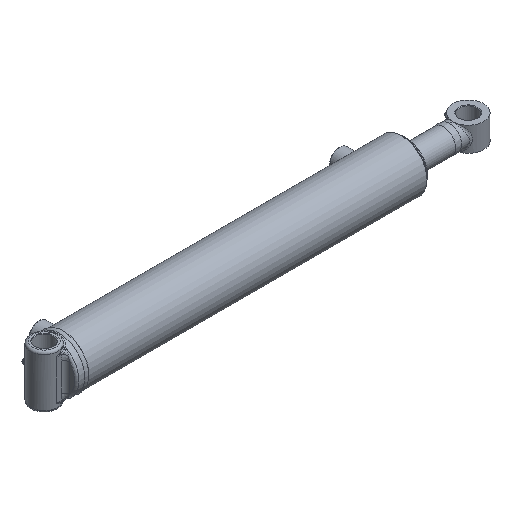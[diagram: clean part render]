
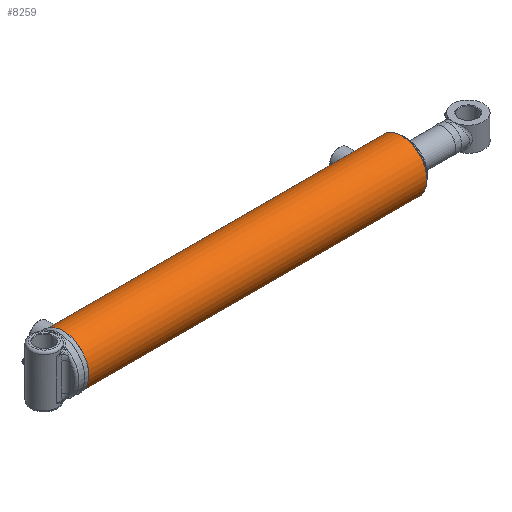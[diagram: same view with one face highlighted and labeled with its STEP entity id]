
A CAD part, isometric view. The second image highlights one B-rep face of the part: STEP entity #8259.
In plain terms, the highlighted cylindrical face has radius 36.513 mm (diameter 73.025 mm), a full revolution.
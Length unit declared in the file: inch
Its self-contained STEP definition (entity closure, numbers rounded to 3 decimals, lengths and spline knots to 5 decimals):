
#713=B_SPLINE_CURVE_WITH_KNOTS('',3,(#12235,#12236,#12237,#12238,#12239,
#12240,#12241,#12242,#12243,#12244),.UNSPECIFIED.,.F.,.F.,(4,2,2,2,4),(0.,
0.17962,0.35924,0.53885,0.71847),
 .UNSPECIFIED.);
#714=B_SPLINE_CURVE_WITH_KNOTS('',3,(#12245,#12246,#12247,#12248,#12249,
#12250,#12251,#12252,#12253,#12254,#12255,#12256,#12257,#12258,#12259,#12260,
#12261,#12262,#12263,#12264,#12265,#12266,#12267,#12268,#12269,#12270),
 .UNSPECIFIED.,.F.,.F.,(4,2,2,2,2,2,2,2,2,2,2,2,4),(0.71847,0.89808,
1.0777,1.25732,1.43694,1.61655,1.79617,
1.97579,2.1554,2.33502,2.51464,2.69425,
2.87387),.UNSPECIFIED.);
#715=B_SPLINE_CURVE_WITH_KNOTS('',3,(#12275,#12276,#12277,#12278,#12279,
#12280,#12281,#12282,#12283,#12284),.UNSPECIFIED.,.F.,.F.,(4,2,2,2,4),(0.,
0.17962,0.35924,0.53885,0.71847),
 .UNSPECIFIED.);
#716=B_SPLINE_CURVE_WITH_KNOTS('',3,(#12285,#12286,#12287,#12288,#12289,
#12290,#12291,#12292,#12293,#12294,#12295,#12296,#12297,#12298,#12299,#12300,
#12301,#12302,#12303,#12304,#12305,#12306,#12307,#12308,#12309,#12310),
 .UNSPECIFIED.,.F.,.F.,(4,2,2,2,2,2,2,2,2,2,2,2,4),(0.71847,0.89808,
1.0777,1.25732,1.43694,1.61655,1.79617,
1.97579,2.1554,2.33502,2.51464,2.69425,
2.87387),.UNSPECIFIED.);
#1063=FACE_BOUND('',#2630,.T.);
#1064=FACE_BOUND('',#2631,.T.);
#1342=LINE('',#12338,#1685);
#1685=VECTOR('',#10083,1.4375);
#2025=CYLINDRICAL_SURFACE('',#9126,1.4375);
#2115=FACE_OUTER_BOUND('',#2629,.T.);
#2629=EDGE_LOOP('',(#5794,#5795,#5796,#5797,#5798,#5799));
#2630=EDGE_LOOP('',(#5800,#5801));
#2631=EDGE_LOOP('',(#5802,#5803));
#3228=CIRCLE('',#9123,1.4375);
#3230=CIRCLE('',#9125,1.4375);
#3231=CIRCLE('',#9127,1.4375);
#3232=CIRCLE('',#9128,1.4375);
#3701=VERTEX_POINT('',#12232);
#3702=VERTEX_POINT('',#12234);
#3703=VERTEX_POINT('',#12272);
#3704=VERTEX_POINT('',#12274);
#3711=VERTEX_POINT('',#12331);
#3712=VERTEX_POINT('',#12332);
#3713=VERTEX_POINT('',#12337);
#3714=VERTEX_POINT('',#12339);
#4507=EDGE_CURVE('',#3702,#3701,#713,.T.);
#4508=EDGE_CURVE('',#3701,#3702,#714,.T.);
#4510=EDGE_CURVE('',#3704,#3703,#715,.T.);
#4511=EDGE_CURVE('',#3703,#3704,#716,.T.);
#4521=EDGE_CURVE('',#3711,#3712,#3228,.T.);
#4523=EDGE_CURVE('',#3712,#3711,#3230,.T.);
#4524=EDGE_CURVE('',#3711,#3713,#1342,.T.);
#4525=EDGE_CURVE('',#3714,#3713,#3231,.T.);
#4526=EDGE_CURVE('',#3713,#3714,#3232,.T.);
#5794=ORIENTED_EDGE('',*,*,#4521,.F.);
#5795=ORIENTED_EDGE('',*,*,#4524,.T.);
#5796=ORIENTED_EDGE('',*,*,#4525,.F.);
#5797=ORIENTED_EDGE('',*,*,#4526,.F.);
#5798=ORIENTED_EDGE('',*,*,#4524,.F.);
#5799=ORIENTED_EDGE('',*,*,#4523,.F.);
#5800=ORIENTED_EDGE('',*,*,#4507,.T.);
#5801=ORIENTED_EDGE('',*,*,#4508,.T.);
#5802=ORIENTED_EDGE('',*,*,#4510,.T.);
#5803=ORIENTED_EDGE('',*,*,#4511,.T.);
#8259=ADVANCED_FACE('',(#2115,#1063,#1064),#2025,.T.);
#9123=AXIS2_PLACEMENT_3D('',#12333,#10075,#10076);
#9125=AXIS2_PLACEMENT_3D('',#12335,#10079,#10080);
#9126=AXIS2_PLACEMENT_3D('',#12336,#10081,#10082);
#9127=AXIS2_PLACEMENT_3D('',#12340,#10084,#10085);
#9128=AXIS2_PLACEMENT_3D('',#12341,#10086,#10087);
#10075=DIRECTION('center_axis',(1.,0.,0.));
#10076=DIRECTION('ref_axis',(0.,-1.,0.));
#10079=DIRECTION('center_axis',(1.,0.,0.));
#10080=DIRECTION('ref_axis',(0.,-1.,0.));
#10081=DIRECTION('center_axis',(1.,0.,0.));
#10082=DIRECTION('ref_axis',(0.,-1.,0.));
#10083=DIRECTION('',(-1.,0.,0.));
#10084=DIRECTION('center_axis',(-1.,0.,0.));
#10085=DIRECTION('ref_axis',(0.,-1.,0.));
#10086=DIRECTION('center_axis',(-1.,0.,0.));
#10087=DIRECTION('ref_axis',(0.,-1.,0.));
#12232=CARTESIAN_POINT('',(0.5925,0.,1.4375));
#12234=CARTESIAN_POINT('',(0.78,-0.1875,1.42522));
#12235=CARTESIAN_POINT('Ctrl Pts',(0.78,-0.1875,1.42522));
#12236=CARTESIAN_POINT('Ctrl Pts',(0.75643,-0.1875,1.42522));
#12237=CARTESIAN_POINT('Ctrl Pts',(0.7313,-0.18278,
1.42586));
#12238=CARTESIAN_POINT('Ctrl Pts',(0.68512,-0.16364,
1.42819));
#12239=CARTESIAN_POINT('Ctrl Pts',(0.66405,-0.14921,
1.42983));
#12240=CARTESIAN_POINT('Ctrl Pts',(0.63079,-0.11595,
1.43291));
#12241=CARTESIAN_POINT('Ctrl Pts',(0.61636,-0.09488,
1.43455));
#12242=CARTESIAN_POINT('Ctrl Pts',(0.59722,-0.0487,
1.43686));
#12243=CARTESIAN_POINT('Ctrl Pts',(0.5925,-0.02357,1.4375));
#12244=CARTESIAN_POINT('Ctrl Pts',(0.5925,0.,1.4375));
#12245=CARTESIAN_POINT('Ctrl Pts',(0.5925,0.,1.4375));
#12246=CARTESIAN_POINT('Ctrl Pts',(0.5925,0.02357,1.4375));
#12247=CARTESIAN_POINT('Ctrl Pts',(0.59722,0.0487,
1.43686));
#12248=CARTESIAN_POINT('Ctrl Pts',(0.61636,0.09488,
1.43455));
#12249=CARTESIAN_POINT('Ctrl Pts',(0.63079,0.11595,
1.43291));
#12250=CARTESIAN_POINT('Ctrl Pts',(0.66405,0.14921,
1.42983));
#12251=CARTESIAN_POINT('Ctrl Pts',(0.68512,0.16364,
1.42819));
#12252=CARTESIAN_POINT('Ctrl Pts',(0.7313,0.18278,
1.42586));
#12253=CARTESIAN_POINT('Ctrl Pts',(0.75643,0.1875,1.42522));
#12254=CARTESIAN_POINT('Ctrl Pts',(0.80357,0.1875,1.42522));
#12255=CARTESIAN_POINT('Ctrl Pts',(0.8287,0.18278,
1.42586));
#12256=CARTESIAN_POINT('Ctrl Pts',(0.87488,0.16364,
1.42819));
#12257=CARTESIAN_POINT('Ctrl Pts',(0.89595,0.14921,
1.42983));
#12258=CARTESIAN_POINT('Ctrl Pts',(0.92921,0.11595,
1.43291));
#12259=CARTESIAN_POINT('Ctrl Pts',(0.94364,0.09488,
1.43455));
#12260=CARTESIAN_POINT('Ctrl Pts',(0.96278,0.0487,
1.43686));
#12261=CARTESIAN_POINT('Ctrl Pts',(0.9675,0.02357,1.4375));
#12262=CARTESIAN_POINT('Ctrl Pts',(0.9675,-0.02357,1.4375));
#12263=CARTESIAN_POINT('Ctrl Pts',(0.96278,-0.0487,
1.43686));
#12264=CARTESIAN_POINT('Ctrl Pts',(0.94364,-0.09488,
1.43455));
#12265=CARTESIAN_POINT('Ctrl Pts',(0.92921,-0.11595,
1.43291));
#12266=CARTESIAN_POINT('Ctrl Pts',(0.89595,-0.14921,
1.42983));
#12267=CARTESIAN_POINT('Ctrl Pts',(0.87488,-0.16364,
1.42819));
#12268=CARTESIAN_POINT('Ctrl Pts',(0.8287,-0.18278,
1.42586));
#12269=CARTESIAN_POINT('Ctrl Pts',(0.80357,-0.1875,1.42522));
#12270=CARTESIAN_POINT('Ctrl Pts',(0.78,-0.1875,1.42522));
#12272=CARTESIAN_POINT('',(17.6095,0.,1.4375));
#12274=CARTESIAN_POINT('',(17.797,-0.1875,1.42522));
#12275=CARTESIAN_POINT('Ctrl Pts',(17.797,-0.1875,1.42522));
#12276=CARTESIAN_POINT('Ctrl Pts',(17.77343,-0.1875,
1.42522));
#12277=CARTESIAN_POINT('Ctrl Pts',(17.7483,-0.18278,
1.42586));
#12278=CARTESIAN_POINT('Ctrl Pts',(17.70212,-0.16364,
1.42819));
#12279=CARTESIAN_POINT('Ctrl Pts',(17.68105,-0.14921,
1.42983));
#12280=CARTESIAN_POINT('Ctrl Pts',(17.64779,-0.11595,1.43291));
#12281=CARTESIAN_POINT('Ctrl Pts',(17.63336,-0.09488,
1.43455));
#12282=CARTESIAN_POINT('Ctrl Pts',(17.61422,-0.0487,
1.43686));
#12283=CARTESIAN_POINT('Ctrl Pts',(17.6095,-0.02357,1.4375));
#12284=CARTESIAN_POINT('Ctrl Pts',(17.6095,0.,1.4375));
#12285=CARTESIAN_POINT('Ctrl Pts',(17.6095,0.,1.4375));
#12286=CARTESIAN_POINT('Ctrl Pts',(17.6095,0.02357,1.4375));
#12287=CARTESIAN_POINT('Ctrl Pts',(17.61422,0.0487,
1.43686));
#12288=CARTESIAN_POINT('Ctrl Pts',(17.63336,0.09488,
1.43455));
#12289=CARTESIAN_POINT('Ctrl Pts',(17.64779,0.11595,1.43291));
#12290=CARTESIAN_POINT('Ctrl Pts',(17.68105,0.14921,1.42983));
#12291=CARTESIAN_POINT('Ctrl Pts',(17.70212,0.16364,1.42819));
#12292=CARTESIAN_POINT('Ctrl Pts',(17.7483,0.18278,1.42586));
#12293=CARTESIAN_POINT('Ctrl Pts',(17.77343,0.1875,1.42522));
#12294=CARTESIAN_POINT('Ctrl Pts',(17.82057,0.1875,1.42522));
#12295=CARTESIAN_POINT('Ctrl Pts',(17.8457,0.18278,1.42586));
#12296=CARTESIAN_POINT('Ctrl Pts',(17.89188,0.16364,1.42819));
#12297=CARTESIAN_POINT('Ctrl Pts',(17.91295,0.14921,1.42983));
#12298=CARTESIAN_POINT('Ctrl Pts',(17.94621,0.11595,1.43291));
#12299=CARTESIAN_POINT('Ctrl Pts',(17.96064,0.09488,
1.43455));
#12300=CARTESIAN_POINT('Ctrl Pts',(17.97978,0.0487,
1.43686));
#12301=CARTESIAN_POINT('Ctrl Pts',(17.9845,0.02357,1.4375));
#12302=CARTESIAN_POINT('Ctrl Pts',(17.9845,-0.02357,1.4375));
#12303=CARTESIAN_POINT('Ctrl Pts',(17.97978,-0.0487,
1.43686));
#12304=CARTESIAN_POINT('Ctrl Pts',(17.96064,-0.09488,
1.43455));
#12305=CARTESIAN_POINT('Ctrl Pts',(17.94621,-0.11595,1.43291));
#12306=CARTESIAN_POINT('Ctrl Pts',(17.91295,-0.14921,
1.42983));
#12307=CARTESIAN_POINT('Ctrl Pts',(17.89188,-0.16364,
1.42819));
#12308=CARTESIAN_POINT('Ctrl Pts',(17.8457,-0.18278,
1.42586));
#12309=CARTESIAN_POINT('Ctrl Pts',(17.82057,-0.1875,
1.42522));
#12310=CARTESIAN_POINT('Ctrl Pts',(17.797,-0.1875,1.42522));
#12331=CARTESIAN_POINT('',(19.227,1.4375,0.));
#12332=CARTESIAN_POINT('',(19.227,0.,-1.4375));
#12333=CARTESIAN_POINT('Origin',(19.227,0.,0.));
#12335=CARTESIAN_POINT('Origin',(19.227,0.,0.));
#12336=CARTESIAN_POINT('Origin',(0.,0.,0.));
#12337=CARTESIAN_POINT('',(0.09382,1.4375,0.));
#12338=CARTESIAN_POINT('',(0.,1.4375,0.));
#12339=CARTESIAN_POINT('',(0.09382,0.,1.4375));
#12340=CARTESIAN_POINT('Origin',(0.09382,0.,0.));
#12341=CARTESIAN_POINT('Origin',(0.09382,0.,0.));
